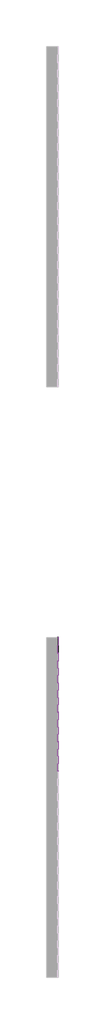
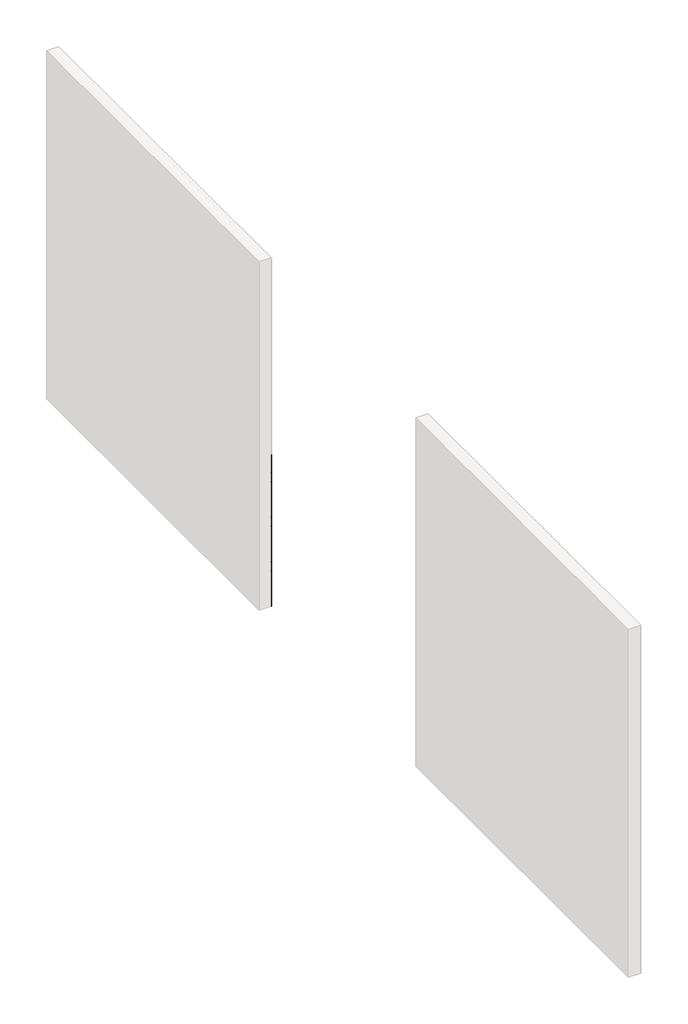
# One storey, part 30 of 45: 147 proxies.
"""IFC4 building model written with IfcOpenShell, lengths in millimetres."""

from ifc_helpers import new_model, si_unit, origin, place, context, project, spatial, transform, mapped, element, save
from components import generic_models_ab0f2c30, generic_models_1527efce

model = new_model("IFC4")

# Units and contexts
model_context = context("Model", 3, world=origin())
ifc_project = project(units=[si_unit("LENGTHUNIT", "METRE", prefix="MILLI")], contexts=[model_context])

# Site, building, storey
site = spatial("IfcSite", under=ifc_project)
building = spatial("IfcBuilding", under=site)
storey = spatial("IfcBuildingStorey", under=building, Name="PORTOBELLO - SHOWROOM", Elevation=0.0)

# Proxies
placement = place(None, origin())
generic_models_shape = generic_models_ab0f2c30(model_context)
element("IfcBuildingElementProxy", 1, Name="PBSHOP - HORIZONTES SANTORINI 6,5X23 : SANTORINI ROTAS", ObjectType="PBSHOP - HORIZONTES SANTORINI 6,5X23 : SANTORINI ROTAS", at=placement, inside=storey, context=model_context, shape_type="MappedRepresentation", body=[
    mapped(generic_models_shape, transform((66511.8826867, 12598.0312463, 1966.5), x_axis=(0.0, 0.0, 1.0), y_axis=(0.0, -1.0, 0.0), z_axis=(1.0, 0.0, 0.0))),
])
element("IfcBuildingElementProxy", 2, Name="PBSHOP - HORIZONTES SANTORINI 6,5X23 : SANTORINI ROTAS", ObjectType="PBSHOP - HORIZONTES SANTORINI 6,5X23 : SANTORINI ROTAS", at=placement, inside=storey, context=model_context, shape_type="MappedRepresentation", body=[
    mapped(generic_models_shape, transform((66511.8826867, 12832.0312463, 1966.5), x_axis=(0.0, 0.0, 1.0), y_axis=(0.0, -1.0, 0.0), z_axis=(1.0, 0.0, 0.0))),
])
element("IfcBuildingElementProxy", 3, Name="PBSHOP - HORIZONTES SANTORINI 6,5X23 : SANTORINI ROTAS", ObjectType="PBSHOP - HORIZONTES SANTORINI 6,5X23 : SANTORINI ROTAS", at=placement, inside=storey, context=model_context, shape_type="MappedRepresentation", body=[
    mapped(generic_models_shape, transform((66511.8826867, 12130.0312463, 2035.5), x_axis=(0.0, 0.0, 1.0), y_axis=(0.0, -1.0, 0.0), z_axis=(1.0, 0.0, 0.0))),
])
element("IfcBuildingElementProxy", 4, Name="PBSHOP - HORIZONTES SANTORINI 6,5X23 : SANTORINI ROTAS", ObjectType="PBSHOP - HORIZONTES SANTORINI 6,5X23 : SANTORINI ROTAS", at=placement, inside=storey, context=model_context, shape_type="MappedRepresentation", body=[
    mapped(generic_models_shape, transform((66511.8826867, 12364.0312463, 2035.5), x_axis=(0.0, 0.0, 1.0), y_axis=(0.0, -1.0, 0.0), z_axis=(1.0, 0.0, 0.0))),
])
element("IfcBuildingElementProxy", 5, Name="PBSHOP - HORIZONTES SANTORINI 6,5X23 : SANTORINI ROTAS", ObjectType="PBSHOP - HORIZONTES SANTORINI 6,5X23 : SANTORINI ROTAS", at=placement, inside=storey, context=model_context, shape_type="MappedRepresentation", body=[
    mapped(generic_models_shape, transform((66511.8826867, 12598.0312463, 2035.5), x_axis=(0.0, 0.0, 1.0), y_axis=(0.0, -1.0, 0.0), z_axis=(1.0, 0.0, 0.0))),
])
element("IfcBuildingElementProxy", 6, Name="PBSHOP - HORIZONTES SANTORINI 6,5X23 : SANTORINI ROTAS", ObjectType="PBSHOP - HORIZONTES SANTORINI 6,5X23 : SANTORINI ROTAS", at=placement, inside=storey, context=model_context, shape_type="MappedRepresentation", body=[
    mapped(generic_models_shape, transform((66511.8826867, 12832.0312463, 2035.5), x_axis=(0.0, 0.0, 1.0), y_axis=(0.0, -1.0, 0.0), z_axis=(1.0, 0.0, 0.0))),
])
element("IfcBuildingElementProxy", 7, Name="PBSHOP - HORIZONTES SANTORINI 6,5X23 : SANTORINI ROTAS", ObjectType="PBSHOP - HORIZONTES SANTORINI 6,5X23 : SANTORINI ROTAS", at=placement, inside=storey, context=model_context, shape_type="MappedRepresentation", body=[
    mapped(generic_models_shape, transform((66511.8826867, 12130.0312463, 2104.5), x_axis=(0.0, 0.0, 1.0), y_axis=(0.0, -1.0, 0.0), z_axis=(1.0, 0.0, 0.0))),
])
element("IfcBuildingElementProxy", 8, Name="PBSHOP - HORIZONTES SANTORINI 6,5X23 : SANTORINI ROTAS", ObjectType="PBSHOP - HORIZONTES SANTORINI 6,5X23 : SANTORINI ROTAS", at=placement, inside=storey, context=model_context, shape_type="MappedRepresentation", body=[
    mapped(generic_models_shape, transform((66511.8826867, 12364.0312463, 2104.5), x_axis=(0.0, 0.0, 1.0), y_axis=(0.0, -1.0, 0.0), z_axis=(1.0, 0.0, 0.0))),
])
element("IfcBuildingElementProxy", 9, Name="PBSHOP - HORIZONTES SANTORINI 6,5X23 : SANTORINI ROTAS", ObjectType="PBSHOP - HORIZONTES SANTORINI 6,5X23 : SANTORINI ROTAS", at=placement, inside=storey, context=model_context, shape_type="MappedRepresentation", body=[
    mapped(generic_models_shape, transform((66511.8826867, 12598.0312463, 2104.5), x_axis=(0.0, 0.0, 1.0), y_axis=(0.0, -1.0, 0.0), z_axis=(1.0, 0.0, 0.0))),
])
element("IfcBuildingElementProxy", 10, Name="PBSHOP - HORIZONTES SANTORINI 6,5X23 : SANTORINI ROTAS", ObjectType="PBSHOP - HORIZONTES SANTORINI 6,5X23 : SANTORINI ROTAS", at=placement, inside=storey, context=model_context, shape_type="MappedRepresentation", body=[
    mapped(generic_models_shape, transform((66511.8826867, 12832.0312463, 2104.5), x_axis=(0.0, 0.0, 1.0), y_axis=(0.0, -1.0, 0.0), z_axis=(1.0, 0.0, 0.0))),
])
element("IfcBuildingElementProxy", 11, Name="PBSHOP - HORIZONTES SANTORINI 6,5X23 : SANTORINI ROTAS", ObjectType="PBSHOP - HORIZONTES SANTORINI 6,5X23 : SANTORINI ROTAS", at=placement, inside=storey, context=model_context, shape_type="MappedRepresentation", body=[
    mapped(generic_models_shape, transform((66511.8826867, 12130.0312463, 2173.5), x_axis=(0.0, 0.0, 1.0), y_axis=(0.0, -1.0, 0.0), z_axis=(1.0, 0.0, 0.0))),
])
element("IfcBuildingElementProxy", 12, Name="PBSHOP - HORIZONTES SANTORINI 6,5X23 : SANTORINI ROTAS", ObjectType="PBSHOP - HORIZONTES SANTORINI 6,5X23 : SANTORINI ROTAS", at=placement, inside=storey, context=model_context, shape_type="MappedRepresentation", body=[
    mapped(generic_models_shape, transform((66511.8826867, 12364.0312463, 2173.5), x_axis=(0.0, 0.0, 1.0), y_axis=(0.0, -1.0, 0.0), z_axis=(1.0, 0.0, 0.0))),
])
element("IfcBuildingElementProxy", 13, Name="PBSHOP - HORIZONTES SANTORINI 6,5X23 : SANTORINI ROTAS", ObjectType="PBSHOP - HORIZONTES SANTORINI 6,5X23 : SANTORINI ROTAS", at=placement, inside=storey, context=model_context, shape_type="MappedRepresentation", body=[
    mapped(generic_models_shape, transform((66511.8826867, 12598.0312463, 2173.5), x_axis=(0.0, 0.0, 1.0), y_axis=(0.0, -1.0, 0.0), z_axis=(1.0, 0.0, 0.0))),
])
element("IfcBuildingElementProxy", 14, Name="PBSHOP - HORIZONTES SANTORINI 6,5X23 : SANTORINI ROTAS", ObjectType="PBSHOP - HORIZONTES SANTORINI 6,5X23 : SANTORINI ROTAS", at=placement, inside=storey, context=model_context, shape_type="MappedRepresentation", body=[
    mapped(generic_models_shape, transform((66511.8826867, 12832.0312463, 2173.5), x_axis=(0.0, 0.0, 1.0), y_axis=(0.0, -1.0, 0.0), z_axis=(1.0, 0.0, 0.0))),
])
element("IfcBuildingElementProxy", 15, Name="PBSHOP - HORIZONTES SANTORINI 6,5X23 : SANTORINI ROTAS", ObjectType="PBSHOP - HORIZONTES SANTORINI 6,5X23 : SANTORINI ROTAS", at=placement, inside=storey, context=model_context, shape_type="MappedRepresentation", body=[
    mapped(generic_models_shape, transform((66511.8826867, 12130.0312463, 2242.5), x_axis=(0.0, 0.0, 1.0), y_axis=(0.0, -1.0, 0.0), z_axis=(1.0, 0.0, 0.0))),
])
element("IfcBuildingElementProxy", 16, Name="PBSHOP - HORIZONTES SANTORINI 6,5X23 : SANTORINI ROTAS", ObjectType="PBSHOP - HORIZONTES SANTORINI 6,5X23 : SANTORINI ROTAS", at=placement, inside=storey, context=model_context, shape_type="MappedRepresentation", body=[
    mapped(generic_models_shape, transform((66511.8826867, 12364.0312463, 2242.5), x_axis=(0.0, 0.0, 1.0), y_axis=(0.0, -1.0, 0.0), z_axis=(1.0, 0.0, 0.0))),
])
element("IfcBuildingElementProxy", 17, Name="PBSHOP - HORIZONTES SANTORINI 6,5X23 : SANTORINI ROTAS", ObjectType="PBSHOP - HORIZONTES SANTORINI 6,5X23 : SANTORINI ROTAS", at=placement, inside=storey, context=model_context, shape_type="MappedRepresentation", body=[
    mapped(generic_models_shape, transform((66511.8826867, 12598.0312463, 2242.5), x_axis=(0.0, 0.0, 1.0), y_axis=(0.0, -1.0, 0.0), z_axis=(1.0, 0.0, 0.0))),
])
element("IfcBuildingElementProxy", 18, Name="PBSHOP - HORIZONTES SANTORINI 6,5X23 : SANTORINI ROTAS", ObjectType="PBSHOP - HORIZONTES SANTORINI 6,5X23 : SANTORINI ROTAS", at=placement, inside=storey, context=model_context, shape_type="MappedRepresentation", body=[
    mapped(generic_models_shape, transform((66511.8826867, 12832.0312463, 2242.5), x_axis=(0.0, 0.0, 1.0), y_axis=(0.0, -1.0, 0.0), z_axis=(1.0, 0.0, 0.0))),
])
element("IfcBuildingElementProxy", 19, Name="PBSHOP - HORIZONTES SANTORINI 6,5X23 : SANTORINI ROTAS", ObjectType="PBSHOP - HORIZONTES SANTORINI 6,5X23 : SANTORINI ROTAS", at=placement, inside=storey, context=model_context, shape_type="MappedRepresentation", body=[
    mapped(generic_models_shape, transform((66511.8826867, 12130.0312463, 2311.5), x_axis=(0.0, 0.0, 1.0), y_axis=(0.0, -1.0, 0.0), z_axis=(1.0, 0.0, 0.0))),
])
element("IfcBuildingElementProxy", 20, Name="PBSHOP - HORIZONTES SANTORINI 6,5X23 : SANTORINI ROTAS", ObjectType="PBSHOP - HORIZONTES SANTORINI 6,5X23 : SANTORINI ROTAS", at=placement, inside=storey, context=model_context, shape_type="MappedRepresentation", body=[
    mapped(generic_models_shape, transform((66511.8826867, 12364.0312463, 2311.5), x_axis=(0.0, 0.0, 1.0), y_axis=(0.0, -1.0, 0.0), z_axis=(1.0, 0.0, 0.0))),
])
element("IfcBuildingElementProxy", 21, Name="PBSHOP - HORIZONTES SANTORINI 6,5X23 : SANTORINI ROTAS", ObjectType="PBSHOP - HORIZONTES SANTORINI 6,5X23 : SANTORINI ROTAS", at=placement, inside=storey, context=model_context, shape_type="MappedRepresentation", body=[
    mapped(generic_models_shape, transform((66511.8826867, 12598.0312463, 2311.5), x_axis=(0.0, 0.0, 1.0), y_axis=(0.0, -1.0, 0.0), z_axis=(1.0, 0.0, 0.0))),
])
element("IfcBuildingElementProxy", 22, Name="PBSHOP - HORIZONTES SANTORINI 6,5X23 : SANTORINI ROTAS", ObjectType="PBSHOP - HORIZONTES SANTORINI 6,5X23 : SANTORINI ROTAS", at=placement, inside=storey, context=model_context, shape_type="MappedRepresentation", body=[
    mapped(generic_models_shape, transform((66511.8826867, 12832.0312463, 2311.5), x_axis=(0.0, 0.0, 1.0), y_axis=(0.0, -1.0, 0.0), z_axis=(1.0, 0.0, 0.0))),
])
element("IfcBuildingElementProxy", 23, Name="PBSHOP - HORIZONTES SANTORINI 6,5X23 : SANTORINI ROTAS", ObjectType="PBSHOP - HORIZONTES SANTORINI 6,5X23 : SANTORINI ROTAS", at=placement, inside=storey, context=model_context, shape_type="MappedRepresentation", body=[
    mapped(generic_models_shape, transform((66511.8826867, 12130.0312463, 2380.5), x_axis=(0.0, 0.0, 1.0), y_axis=(0.0, -1.0, 0.0), z_axis=(1.0, 0.0, 0.0))),
])
element("IfcBuildingElementProxy", 24, Name="PBSHOP - HORIZONTES SANTORINI 6,5X23 : SANTORINI ROTAS", ObjectType="PBSHOP - HORIZONTES SANTORINI 6,5X23 : SANTORINI ROTAS", at=placement, inside=storey, context=model_context, shape_type="MappedRepresentation", body=[
    mapped(generic_models_shape, transform((66511.8826867, 12364.0312463, 2380.5), x_axis=(0.0, 0.0, 1.0), y_axis=(0.0, -1.0, 0.0), z_axis=(1.0, 0.0, 0.0))),
])
element("IfcBuildingElementProxy", 25, Name="PBSHOP - HORIZONTES SANTORINI 6,5X23 : SANTORINI ROTAS", ObjectType="PBSHOP - HORIZONTES SANTORINI 6,5X23 : SANTORINI ROTAS", at=placement, inside=storey, context=model_context, shape_type="MappedRepresentation", body=[
    mapped(generic_models_shape, transform((66511.8826867, 12598.0312463, 2380.5), x_axis=(0.0, 0.0, 1.0), y_axis=(0.0, -1.0, 0.0), z_axis=(1.0, 0.0, 0.0))),
])
element("IfcBuildingElementProxy", 26, Name="PBSHOP - HORIZONTES SANTORINI 6,5X23 : SANTORINI ROTAS", ObjectType="PBSHOP - HORIZONTES SANTORINI 6,5X23 : SANTORINI ROTAS", at=placement, inside=storey, context=model_context, shape_type="MappedRepresentation", body=[
    mapped(generic_models_shape, transform((66511.8826867, 12832.0312463, 2380.5), x_axis=(0.0, 0.0, 1.0), y_axis=(0.0, -1.0, 0.0), z_axis=(1.0, 0.0, 0.0))),
])
element("IfcBuildingElementProxy", 27, Name="PBSHOP - HORIZONTES SANTORINI 6,5X23 : SANTORINI ROTAS", ObjectType="PBSHOP - HORIZONTES SANTORINI 6,5X23 : SANTORINI ROTAS", at=placement, inside=storey, context=model_context, shape_type="MappedRepresentation", body=[
    mapped(generic_models_shape, transform((66511.8826867, 12130.0312463, 2449.5), x_axis=(0.0, 0.0, 1.0), y_axis=(0.0, -1.0, 0.0), z_axis=(1.0, 0.0, 0.0))),
])
element("IfcBuildingElementProxy", 28, Name="PBSHOP - HORIZONTES SANTORINI 6,5X23 : SANTORINI ROTAS", ObjectType="PBSHOP - HORIZONTES SANTORINI 6,5X23 : SANTORINI ROTAS", at=placement, inside=storey, context=model_context, shape_type="MappedRepresentation", body=[
    mapped(generic_models_shape, transform((66511.8826867, 12364.0312463, 2449.5), x_axis=(0.0, 0.0, 1.0), y_axis=(0.0, -1.0, 0.0), z_axis=(1.0, 0.0, 0.0))),
])
element("IfcBuildingElementProxy", 29, Name="PBSHOP - HORIZONTES SANTORINI 6,5X23 : SANTORINI ROTAS", ObjectType="PBSHOP - HORIZONTES SANTORINI 6,5X23 : SANTORINI ROTAS", at=placement, inside=storey, context=model_context, shape_type="MappedRepresentation", body=[
    mapped(generic_models_shape, transform((66511.8826867, 12598.0312463, 2449.5), x_axis=(0.0, 0.0, 1.0), y_axis=(0.0, -1.0, 0.0), z_axis=(1.0, 0.0, 0.0))),
])
element("IfcBuildingElementProxy", 30, Name="PBSHOP - HORIZONTES SANTORINI 6,5X23 : SANTORINI ROTAS", ObjectType="PBSHOP - HORIZONTES SANTORINI 6,5X23 : SANTORINI ROTAS", at=placement, inside=storey, context=model_context, shape_type="MappedRepresentation", body=[
    mapped(generic_models_shape, transform((66511.8826867, 12832.0312463, 2449.5), x_axis=(0.0, 0.0, 1.0), y_axis=(0.0, -1.0, 0.0), z_axis=(1.0, 0.0, 0.0))),
])
element("IfcBuildingElementProxy", 31, Name="PBSHOP - HORIZONTES SANTORINI 6,5X23 : SANTORINI ROTAS", ObjectType="PBSHOP - HORIZONTES SANTORINI 6,5X23 : SANTORINI ROTAS", at=placement, inside=storey, context=model_context, shape_type="MappedRepresentation", body=[
    mapped(generic_models_shape, transform((66511.8826867, 12130.0312463, 2518.5), x_axis=(0.0, 0.0, 1.0), y_axis=(0.0, -1.0, 0.0), z_axis=(1.0, 0.0, 0.0))),
])
element("IfcBuildingElementProxy", 32, Name="PBSHOP - HORIZONTES SANTORINI 6,5X23 : SANTORINI ROTAS", ObjectType="PBSHOP - HORIZONTES SANTORINI 6,5X23 : SANTORINI ROTAS", at=placement, inside=storey, context=model_context, shape_type="MappedRepresentation", body=[
    mapped(generic_models_shape, transform((66511.8826867, 12364.0312463, 2518.5), x_axis=(0.0, 0.0, 1.0), y_axis=(0.0, -1.0, 0.0), z_axis=(1.0, 0.0, 0.0))),
])
element("IfcBuildingElementProxy", 33, Name="PBSHOP - HORIZONTES SANTORINI 6,5X23 : SANTORINI ROTAS", ObjectType="PBSHOP - HORIZONTES SANTORINI 6,5X23 : SANTORINI ROTAS", at=placement, inside=storey, context=model_context, shape_type="MappedRepresentation", body=[
    mapped(generic_models_shape, transform((66511.8826867, 12598.0312463, 2518.5), x_axis=(0.0, 0.0, 1.0), y_axis=(0.0, -1.0, 0.0), z_axis=(1.0, 0.0, 0.0))),
])
element("IfcBuildingElementProxy", 34, Name="PBSHOP - HORIZONTES SANTORINI 6,5X23 : SANTORINI ROTAS", ObjectType="PBSHOP - HORIZONTES SANTORINI 6,5X23 : SANTORINI ROTAS", at=placement, inside=storey, context=model_context, shape_type="MappedRepresentation", body=[
    mapped(generic_models_shape, transform((66511.8826867, 12832.0312463, 2518.5), x_axis=(0.0, 0.0, 1.0), y_axis=(0.0, -1.0, 0.0), z_axis=(1.0, 0.0, 0.0))),
])
element("IfcBuildingElementProxy", 35, Name="PBSHOP - HORIZONTES SANTORINI 6,5X23 : SANTORINI ROTAS", ObjectType="PBSHOP - HORIZONTES SANTORINI 6,5X23 : SANTORINI ROTAS", at=placement, inside=storey, context=model_context, shape_type="MappedRepresentation", body=[
    mapped(generic_models_shape, transform((66511.8826867, 12130.0312463, 2587.5), x_axis=(0.0, 0.0, 1.0), y_axis=(0.0, -1.0, 0.0), z_axis=(1.0, 0.0, 0.0))),
])
element("IfcBuildingElementProxy", 36, Name="PBSHOP - HORIZONTES SANTORINI 6,5X23 : SANTORINI ROTAS", ObjectType="PBSHOP - HORIZONTES SANTORINI 6,5X23 : SANTORINI ROTAS", at=placement, inside=storey, context=model_context, shape_type="MappedRepresentation", body=[
    mapped(generic_models_shape, transform((66511.8826867, 12364.0312463, 2587.5), x_axis=(0.0, 0.0, 1.0), y_axis=(0.0, -1.0, 0.0), z_axis=(1.0, 0.0, 0.0))),
])
element("IfcBuildingElementProxy", 37, Name="PBSHOP - HORIZONTES SANTORINI 6,5X23 : SANTORINI ROTAS", ObjectType="PBSHOP - HORIZONTES SANTORINI 6,5X23 : SANTORINI ROTAS", at=placement, inside=storey, context=model_context, shape_type="MappedRepresentation", body=[
    mapped(generic_models_shape, transform((66511.8826867, 12598.0312463, 2587.5), x_axis=(0.0, 0.0, 1.0), y_axis=(0.0, -1.0, 0.0), z_axis=(1.0, 0.0, 0.0))),
])
element("IfcBuildingElementProxy", 38, Name="PBSHOP - HORIZONTES SANTORINI 6,5X23 : SANTORINI ROTAS", ObjectType="PBSHOP - HORIZONTES SANTORINI 6,5X23 : SANTORINI ROTAS", at=placement, inside=storey, context=model_context, shape_type="MappedRepresentation", body=[
    mapped(generic_models_shape, transform((66511.8826867, 12832.0312463, 2587.5), x_axis=(0.0, 0.0, 1.0), y_axis=(0.0, -1.0, 0.0), z_axis=(1.0, 0.0, 0.0))),
])
element("IfcBuildingElementProxy", 39, Name="PBSHOP - HORIZONTES SANTORINI 6,5X23 : SANTORINI ROTAS", ObjectType="PBSHOP - HORIZONTES SANTORINI 6,5X23 : SANTORINI ROTAS", at=placement, inside=storey, context=model_context, shape_type="MappedRepresentation", body=[
    mapped(generic_models_shape, transform((66511.8826867, 12130.0312463, 2656.5), x_axis=(0.0, 0.0, 1.0), y_axis=(0.0, -1.0, 0.0), z_axis=(1.0, 0.0, 0.0))),
])
element("IfcBuildingElementProxy", 40, Name="PBSHOP - HORIZONTES SANTORINI 6,5X23 : SANTORINI ROTAS", ObjectType="PBSHOP - HORIZONTES SANTORINI 6,5X23 : SANTORINI ROTAS", at=placement, inside=storey, context=model_context, shape_type="MappedRepresentation", body=[
    mapped(generic_models_shape, transform((66511.8826867, 12364.0312463, 2656.5), x_axis=(0.0, 0.0, 1.0), y_axis=(0.0, -1.0, 0.0), z_axis=(1.0, 0.0, 0.0))),
])
element("IfcBuildingElementProxy", 41, Name="PBSHOP - HORIZONTES SANTORINI 6,5X23 : SANTORINI ROTAS", ObjectType="PBSHOP - HORIZONTES SANTORINI 6,5X23 : SANTORINI ROTAS", at=placement, inside=storey, context=model_context, shape_type="MappedRepresentation", body=[
    mapped(generic_models_shape, transform((66511.8826867, 12598.0312463, 2656.5), x_axis=(0.0, 0.0, 1.0), y_axis=(0.0, -1.0, 0.0), z_axis=(1.0, 0.0, 0.0))),
])
element("IfcBuildingElementProxy", 42, Name="PBSHOP - HORIZONTES SANTORINI 6,5X23 : SANTORINI ROTAS", ObjectType="PBSHOP - HORIZONTES SANTORINI 6,5X23 : SANTORINI ROTAS", at=placement, inside=storey, context=model_context, shape_type="MappedRepresentation", body=[
    mapped(generic_models_shape, transform((66511.8826867, 12832.0312463, 2656.5), x_axis=(0.0, 0.0, 1.0), y_axis=(0.0, -1.0, 0.0), z_axis=(1.0, 0.0, 0.0))),
])
element("IfcBuildingElementProxy", 43, Name="PBSHOP - HORIZONTES TULUM 6,5X23 : TULUM AGAVE", ObjectType="PBSHOP - HORIZONTES TULUM 6,5X23 : TULUM AGAVE", at=placement, inside=storey, context=model_context, shape_type="MappedRepresentation", body=[
    mapped(generic_models_shape, transform((66511.8826867, 15186.0588567, 34.5), x_axis=(0.0, 0.0, 1.0), y_axis=(0.0, -1.0, 0.0), z_axis=(1.0, 0.0, 0.0))),
])
element("IfcBuildingElementProxy", 44, Name="PBSHOP - HORIZONTES TULUM 6,5X23 : TULUM AGAVE", ObjectType="PBSHOP - HORIZONTES TULUM 6,5X23 : TULUM AGAVE", at=placement, inside=storey, context=model_context, shape_type="MappedRepresentation", body=[
    mapped(generic_models_shape, transform((66511.8826867, 15420.0588567, 34.5), x_axis=(0.0, 0.0, 1.0), y_axis=(0.0, -1.0, 0.0), z_axis=(1.0, 0.0, 0.0))),
])
element("IfcBuildingElementProxy", 45, Name="PBSHOP - HORIZONTES TULUM 6,5X23 : TULUM AGAVE", ObjectType="PBSHOP - HORIZONTES TULUM 6,5X23 : TULUM AGAVE", at=placement, inside=storey, context=model_context, shape_type="MappedRepresentation", body=[
    mapped(generic_models_shape, transform((66511.8826867, 15654.0588567, 34.5), x_axis=(0.0, 0.0, 1.0), y_axis=(0.0, -1.0, 0.0), z_axis=(1.0, 0.0, 0.0))),
])
element("IfcBuildingElementProxy", 46, Name="PBSHOP - HORIZONTES TULUM 6,5X23 : TULUM AGAVE", ObjectType="PBSHOP - HORIZONTES TULUM 6,5X23 : TULUM AGAVE", at=placement, inside=storey, context=model_context, shape_type="MappedRepresentation", body=[
    mapped(generic_models_shape, transform((66511.8826867, 15888.0588567, 34.5), x_axis=(0.0, 0.0, 1.0), y_axis=(0.0, -1.0, 0.0), z_axis=(1.0, 0.0, 0.0))),
])
element("IfcBuildingElementProxy", 47, Name="PBSHOP - HORIZONTES TULUM 6,5X23 : TULUM AGAVE", ObjectType="PBSHOP - HORIZONTES TULUM 6,5X23 : TULUM AGAVE", at=placement, inside=storey, context=model_context, shape_type="MappedRepresentation", body=[
    mapped(generic_models_shape, transform((66511.8826867, 15186.0588567, 103.5), x_axis=(0.0, 0.0, 1.0), y_axis=(0.0, -1.0, 0.0), z_axis=(1.0, 0.0, 0.0))),
])
element("IfcBuildingElementProxy", 48, Name="PBSHOP - HORIZONTES TULUM 6,5X23 : TULUM AGAVE", ObjectType="PBSHOP - HORIZONTES TULUM 6,5X23 : TULUM AGAVE", at=placement, inside=storey, context=model_context, shape_type="MappedRepresentation", body=[
    mapped(generic_models_shape, transform((66511.8826867, 15420.0588567, 103.5), x_axis=(0.0, 0.0, 1.0), y_axis=(0.0, -1.0, 0.0), z_axis=(1.0, 0.0, 0.0))),
])
element("IfcBuildingElementProxy", 49, Name="PBSHOP - HORIZONTES TULUM 6,5X23 : TULUM AGAVE", ObjectType="PBSHOP - HORIZONTES TULUM 6,5X23 : TULUM AGAVE", at=placement, inside=storey, context=model_context, shape_type="MappedRepresentation", body=[
    mapped(generic_models_shape, transform((66511.8826867, 15654.0588567, 103.5), x_axis=(0.0, 0.0, 1.0), y_axis=(0.0, -1.0, 0.0), z_axis=(1.0, 0.0, 0.0))),
])
element("IfcBuildingElementProxy", 50, Name="PBSHOP - HORIZONTES TULUM 6,5X23 : TULUM AGAVE", ObjectType="PBSHOP - HORIZONTES TULUM 6,5X23 : TULUM AGAVE", at=placement, inside=storey, context=model_context, shape_type="MappedRepresentation", body=[
    mapped(generic_models_shape, transform((66511.8826867, 15888.0588567, 103.5), x_axis=(0.0, 0.0, 1.0), y_axis=(0.0, -1.0, 0.0), z_axis=(1.0, 0.0, 0.0))),
])
element("IfcBuildingElementProxy", 51, Name="PBSHOP - HORIZONTES TULUM 6,5X23 : TULUM AGAVE", ObjectType="PBSHOP - HORIZONTES TULUM 6,5X23 : TULUM AGAVE", at=placement, inside=storey, context=model_context, shape_type="MappedRepresentation", body=[
    mapped(generic_models_shape, transform((66511.8826867, 15186.0588567, 172.5), x_axis=(0.0, 0.0, 1.0), y_axis=(0.0, -1.0, 0.0), z_axis=(1.0, 0.0, 0.0))),
])
element("IfcBuildingElementProxy", 52, Name="PBSHOP - HORIZONTES TULUM 6,5X23 : TULUM AGAVE", ObjectType="PBSHOP - HORIZONTES TULUM 6,5X23 : TULUM AGAVE", at=placement, inside=storey, context=model_context, shape_type="MappedRepresentation", body=[
    mapped(generic_models_shape, transform((66511.8826867, 15420.0588567, 172.5), x_axis=(0.0, 0.0, 1.0), y_axis=(0.0, -1.0, 0.0), z_axis=(1.0, 0.0, 0.0))),
])
element("IfcBuildingElementProxy", 53, Name="PBSHOP - HORIZONTES TULUM 6,5X23 : TULUM AGAVE", ObjectType="PBSHOP - HORIZONTES TULUM 6,5X23 : TULUM AGAVE", at=placement, inside=storey, context=model_context, shape_type="MappedRepresentation", body=[
    mapped(generic_models_shape, transform((66511.8826867, 15654.0588567, 172.5), x_axis=(0.0, 0.0, 1.0), y_axis=(0.0, -1.0, 0.0), z_axis=(1.0, 0.0, 0.0))),
])
element("IfcBuildingElementProxy", 54, Name="PBSHOP - HORIZONTES TULUM 6,5X23 : TULUM AGAVE", ObjectType="PBSHOP - HORIZONTES TULUM 6,5X23 : TULUM AGAVE", at=placement, inside=storey, context=model_context, shape_type="MappedRepresentation", body=[
    mapped(generic_models_shape, transform((66511.8826867, 15888.0588567, 172.5), x_axis=(0.0, 0.0, 1.0), y_axis=(0.0, -1.0, 0.0), z_axis=(1.0, 0.0, 0.0))),
])
element("IfcBuildingElementProxy", 55, Name="PBSHOP - HORIZONTES TULUM 6,5X23 : TULUM AGAVE", ObjectType="PBSHOP - HORIZONTES TULUM 6,5X23 : TULUM AGAVE", at=placement, inside=storey, context=model_context, shape_type="MappedRepresentation", body=[
    mapped(generic_models_shape, transform((66511.8826867, 15186.0588567, 241.5), x_axis=(0.0, 0.0, 1.0), y_axis=(0.0, -1.0, 0.0), z_axis=(1.0, 0.0, 0.0))),
])
element("IfcBuildingElementProxy", 56, Name="PBSHOP - HORIZONTES TULUM 6,5X23 : TULUM AGAVE", ObjectType="PBSHOP - HORIZONTES TULUM 6,5X23 : TULUM AGAVE", at=placement, inside=storey, context=model_context, shape_type="MappedRepresentation", body=[
    mapped(generic_models_shape, transform((66511.8826867, 15420.0588567, 241.5), x_axis=(0.0, 0.0, 1.0), y_axis=(0.0, -1.0, 0.0), z_axis=(1.0, 0.0, 0.0))),
])
element("IfcBuildingElementProxy", 57, Name="PBSHOP - HORIZONTES TULUM 6,5X23 : TULUM AGAVE", ObjectType="PBSHOP - HORIZONTES TULUM 6,5X23 : TULUM AGAVE", at=placement, inside=storey, context=model_context, shape_type="MappedRepresentation", body=[
    mapped(generic_models_shape, transform((66511.8826867, 15654.0588567, 241.5), x_axis=(0.0, 0.0, 1.0), y_axis=(0.0, -1.0, 0.0), z_axis=(1.0, 0.0, 0.0))),
])
element("IfcBuildingElementProxy", 58, Name="PBSHOP - HORIZONTES TULUM 6,5X23 : TULUM AGAVE", ObjectType="PBSHOP - HORIZONTES TULUM 6,5X23 : TULUM AGAVE", at=placement, inside=storey, context=model_context, shape_type="MappedRepresentation", body=[
    mapped(generic_models_shape, transform((66511.8826867, 15888.0588567, 241.5), x_axis=(0.0, 0.0, 1.0), y_axis=(0.0, -1.0, 0.0), z_axis=(1.0, 0.0, 0.0))),
])
element("IfcBuildingElementProxy", 59, Name="PBSHOP - HORIZONTES TULUM 6,5X23 : TULUM AGAVE", ObjectType="PBSHOP - HORIZONTES TULUM 6,5X23 : TULUM AGAVE", at=placement, inside=storey, context=model_context, shape_type="MappedRepresentation", body=[
    mapped(generic_models_shape, transform((66511.8826867, 15186.0588567, 310.5), x_axis=(0.0, 0.0, 1.0), y_axis=(0.0, -1.0, 0.0), z_axis=(1.0, 0.0, 0.0))),
])
element("IfcBuildingElementProxy", 60, Name="PBSHOP - HORIZONTES TULUM 6,5X23 : TULUM AGAVE", ObjectType="PBSHOP - HORIZONTES TULUM 6,5X23 : TULUM AGAVE", at=placement, inside=storey, context=model_context, shape_type="MappedRepresentation", body=[
    mapped(generic_models_shape, transform((66511.8826867, 15420.0588567, 310.5), x_axis=(0.0, 0.0, 1.0), y_axis=(0.0, -1.0, 0.0), z_axis=(1.0, 0.0, 0.0))),
])
element("IfcBuildingElementProxy", 61, Name="PBSHOP - HORIZONTES TULUM 6,5X23 : TULUM AGAVE", ObjectType="PBSHOP - HORIZONTES TULUM 6,5X23 : TULUM AGAVE", at=placement, inside=storey, context=model_context, shape_type="MappedRepresentation", body=[
    mapped(generic_models_shape, transform((66511.8826867, 15654.0588567, 310.5), x_axis=(0.0, 0.0, 1.0), y_axis=(0.0, -1.0, 0.0), z_axis=(1.0, 0.0, 0.0))),
])
element("IfcBuildingElementProxy", 62, Name="PBSHOP - HORIZONTES TULUM 6,5X23 : TULUM AGAVE", ObjectType="PBSHOP - HORIZONTES TULUM 6,5X23 : TULUM AGAVE", at=placement, inside=storey, context=model_context, shape_type="MappedRepresentation", body=[
    mapped(generic_models_shape, transform((66511.8826867, 15888.0588567, 310.5), x_axis=(0.0, 0.0, 1.0), y_axis=(0.0, -1.0, 0.0), z_axis=(1.0, 0.0, 0.0))),
])
element("IfcBuildingElementProxy", 63, Name="PBSHOP - HORIZONTES TULUM 6,5X23 : TULUM AGAVE", ObjectType="PBSHOP - HORIZONTES TULUM 6,5X23 : TULUM AGAVE", at=placement, inside=storey, context=model_context, shape_type="MappedRepresentation", body=[
    mapped(generic_models_shape, transform((66511.8826867, 15186.0588567, 379.5), x_axis=(0.0, 0.0, 1.0), y_axis=(0.0, -1.0, 0.0), z_axis=(1.0, 0.0, 0.0))),
])
element("IfcBuildingElementProxy", 64, Name="PBSHOP - HORIZONTES TULUM 6,5X23 : TULUM AGAVE", ObjectType="PBSHOP - HORIZONTES TULUM 6,5X23 : TULUM AGAVE", at=placement, inside=storey, context=model_context, shape_type="MappedRepresentation", body=[
    mapped(generic_models_shape, transform((66511.8826867, 15420.0588567, 379.5), x_axis=(0.0, 0.0, 1.0), y_axis=(0.0, -1.0, 0.0), z_axis=(1.0, 0.0, 0.0))),
])
element("IfcBuildingElementProxy", 65, Name="PBSHOP - HORIZONTES TULUM 6,5X23 : TULUM AGAVE", ObjectType="PBSHOP - HORIZONTES TULUM 6,5X23 : TULUM AGAVE", at=placement, inside=storey, context=model_context, shape_type="MappedRepresentation", body=[
    mapped(generic_models_shape, transform((66511.8826867, 15654.0588567, 379.5), x_axis=(0.0, 0.0, 1.0), y_axis=(0.0, -1.0, 0.0), z_axis=(1.0, 0.0, 0.0))),
])
element("IfcBuildingElementProxy", 66, Name="PBSHOP - HORIZONTES TULUM 6,5X23 : TULUM AGAVE", ObjectType="PBSHOP - HORIZONTES TULUM 6,5X23 : TULUM AGAVE", at=placement, inside=storey, context=model_context, shape_type="MappedRepresentation", body=[
    mapped(generic_models_shape, transform((66511.8826867, 15888.0588567, 379.5), x_axis=(0.0, 0.0, 1.0), y_axis=(0.0, -1.0, 0.0), z_axis=(1.0, 0.0, 0.0))),
])
element("IfcBuildingElementProxy", 67, Name="PBSHOP - HORIZONTES TULUM 6,5X23 : TULUM AGAVE", ObjectType="PBSHOP - HORIZONTES TULUM 6,5X23 : TULUM AGAVE", at=placement, inside=storey, context=model_context, shape_type="MappedRepresentation", body=[
    mapped(generic_models_shape, transform((66511.8826867, 15186.0588567, 448.5), x_axis=(0.0, 0.0, 1.0), y_axis=(0.0, -1.0, 0.0), z_axis=(1.0, 0.0, 0.0))),
])
element("IfcBuildingElementProxy", 68, Name="PBSHOP - HORIZONTES TULUM 6,5X23 : TULUM AGAVE", ObjectType="PBSHOP - HORIZONTES TULUM 6,5X23 : TULUM AGAVE", at=placement, inside=storey, context=model_context, shape_type="MappedRepresentation", body=[
    mapped(generic_models_shape, transform((66511.8826867, 15420.0588567, 448.5), x_axis=(0.0, 0.0, 1.0), y_axis=(0.0, -1.0, 0.0), z_axis=(1.0, 0.0, 0.0))),
])
element("IfcBuildingElementProxy", 69, Name="PBSHOP - HORIZONTES TULUM 6,5X23 : TULUM AGAVE", ObjectType="PBSHOP - HORIZONTES TULUM 6,5X23 : TULUM AGAVE", at=placement, inside=storey, context=model_context, shape_type="MappedRepresentation", body=[
    mapped(generic_models_shape, transform((66511.8826867, 15654.0588567, 448.5), x_axis=(0.0, 0.0, 1.0), y_axis=(0.0, -1.0, 0.0), z_axis=(1.0, 0.0, 0.0))),
])
element("IfcBuildingElementProxy", 70, Name="PBSHOP - HORIZONTES TULUM 6,5X23 : TULUM AGAVE", ObjectType="PBSHOP - HORIZONTES TULUM 6,5X23 : TULUM AGAVE", at=placement, inside=storey, context=model_context, shape_type="MappedRepresentation", body=[
    mapped(generic_models_shape, transform((66511.8826867, 15888.0588567, 448.5), x_axis=(0.0, 0.0, 1.0), y_axis=(0.0, -1.0, 0.0), z_axis=(1.0, 0.0, 0.0))),
])
element("IfcBuildingElementProxy", 71, Name="PBSHOP - HORIZONTES TULUM 6,5X23 : TULUM AGAVE", ObjectType="PBSHOP - HORIZONTES TULUM 6,5X23 : TULUM AGAVE", at=placement, inside=storey, context=model_context, shape_type="MappedRepresentation", body=[
    mapped(generic_models_shape, transform((66511.8826867, 15186.0588567, 517.5), x_axis=(0.0, 0.0, 1.0), y_axis=(0.0, -1.0, 0.0), z_axis=(1.0, 0.0, 0.0))),
])
element("IfcBuildingElementProxy", 72, Name="PBSHOP - HORIZONTES TULUM 6,5X23 : TULUM AGAVE", ObjectType="PBSHOP - HORIZONTES TULUM 6,5X23 : TULUM AGAVE", at=placement, inside=storey, context=model_context, shape_type="MappedRepresentation", body=[
    mapped(generic_models_shape, transform((66511.8826867, 15420.0588567, 517.5), x_axis=(0.0, 0.0, 1.0), y_axis=(0.0, -1.0, 0.0), z_axis=(1.0, 0.0, 0.0))),
])
element("IfcBuildingElementProxy", 73, Name="PBSHOP - HORIZONTES TULUM 6,5X23 : TULUM AGAVE", ObjectType="PBSHOP - HORIZONTES TULUM 6,5X23 : TULUM AGAVE", at=placement, inside=storey, context=model_context, shape_type="MappedRepresentation", body=[
    mapped(generic_models_shape, transform((66511.8826867, 15654.0588567, 517.5), x_axis=(0.0, 0.0, 1.0), y_axis=(0.0, -1.0, 0.0), z_axis=(1.0, 0.0, 0.0))),
])
element("IfcBuildingElementProxy", 74, Name="PBSHOP - HORIZONTES TULUM 6,5X23 : TULUM AGAVE", ObjectType="PBSHOP - HORIZONTES TULUM 6,5X23 : TULUM AGAVE", at=placement, inside=storey, context=model_context, shape_type="MappedRepresentation", body=[
    mapped(generic_models_shape, transform((66511.8826867, 15888.0588567, 517.5), x_axis=(0.0, 0.0, 1.0), y_axis=(0.0, -1.0, 0.0), z_axis=(1.0, 0.0, 0.0))),
])
element("IfcBuildingElementProxy", 75, Name="PBSHOP - HORIZONTES TULUM 6,5X23 : TULUM AGAVE", ObjectType="PBSHOP - HORIZONTES TULUM 6,5X23 : TULUM AGAVE", at=placement, inside=storey, context=model_context, shape_type="MappedRepresentation", body=[
    mapped(generic_models_shape, transform((66511.8826867, 15186.0588567, 586.5), x_axis=(0.0, 0.0, 1.0), y_axis=(0.0, -1.0, 0.0), z_axis=(1.0, 0.0, 0.0))),
])
element("IfcBuildingElementProxy", 76, Name="PBSHOP - HORIZONTES TULUM 6,5X23 : TULUM AGAVE", ObjectType="PBSHOP - HORIZONTES TULUM 6,5X23 : TULUM AGAVE", at=placement, inside=storey, context=model_context, shape_type="MappedRepresentation", body=[
    mapped(generic_models_shape, transform((66511.8826867, 15420.0588567, 586.5), x_axis=(0.0, 0.0, 1.0), y_axis=(0.0, -1.0, 0.0), z_axis=(1.0, 0.0, 0.0))),
])
element("IfcBuildingElementProxy", 77, Name="PBSHOP - HORIZONTES TULUM 6,5X23 : TULUM AGAVE", ObjectType="PBSHOP - HORIZONTES TULUM 6,5X23 : TULUM AGAVE", at=placement, inside=storey, context=model_context, shape_type="MappedRepresentation", body=[
    mapped(generic_models_shape, transform((66511.8826867, 15654.0588567, 586.5), x_axis=(0.0, 0.0, 1.0), y_axis=(0.0, -1.0, 0.0), z_axis=(1.0, 0.0, 0.0))),
])
element("IfcBuildingElementProxy", 78, Name="PBSHOP - HORIZONTES TULUM 6,5X23 : TULUM AGAVE", ObjectType="PBSHOP - HORIZONTES TULUM 6,5X23 : TULUM AGAVE", at=placement, inside=storey, context=model_context, shape_type="MappedRepresentation", body=[
    mapped(generic_models_shape, transform((66511.8826867, 15888.0588567, 586.5), x_axis=(0.0, 0.0, 1.0), y_axis=(0.0, -1.0, 0.0), z_axis=(1.0, 0.0, 0.0))),
])
element("IfcBuildingElementProxy", 79, Name="PBSHOP - HORIZONTES TULUM 6,5X23 : TULUM AGAVE", ObjectType="PBSHOP - HORIZONTES TULUM 6,5X23 : TULUM AGAVE", at=placement, inside=storey, context=model_context, shape_type="MappedRepresentation", body=[
    mapped(generic_models_shape, transform((66511.8826867, 15186.0588567, 655.5), x_axis=(0.0, 0.0, 1.0), y_axis=(0.0, -1.0, 0.0), z_axis=(1.0, 0.0, 0.0))),
])
element("IfcBuildingElementProxy", 80, Name="PBSHOP - HORIZONTES TULUM 6,5X23 : TULUM AGAVE", ObjectType="PBSHOP - HORIZONTES TULUM 6,5X23 : TULUM AGAVE", at=placement, inside=storey, context=model_context, shape_type="MappedRepresentation", body=[
    mapped(generic_models_shape, transform((66511.8826867, 15420.0588567, 655.5), x_axis=(0.0, 0.0, 1.0), y_axis=(0.0, -1.0, 0.0), z_axis=(1.0, 0.0, 0.0))),
])
element("IfcBuildingElementProxy", 81, Name="PBSHOP - HORIZONTES TULUM 6,5X23 : TULUM AGAVE", ObjectType="PBSHOP - HORIZONTES TULUM 6,5X23 : TULUM AGAVE", at=placement, inside=storey, context=model_context, shape_type="MappedRepresentation", body=[
    mapped(generic_models_shape, transform((66511.8826867, 15654.0588567, 655.5), x_axis=(0.0, 0.0, 1.0), y_axis=(0.0, -1.0, 0.0), z_axis=(1.0, 0.0, 0.0))),
])
element("IfcBuildingElementProxy", 82, Name="PBSHOP - HORIZONTES TULUM 6,5X23 : TULUM AGAVE", ObjectType="PBSHOP - HORIZONTES TULUM 6,5X23 : TULUM AGAVE", at=placement, inside=storey, context=model_context, shape_type="MappedRepresentation", body=[
    mapped(generic_models_shape, transform((66511.8826867, 15888.0588567, 655.5), x_axis=(0.0, 0.0, 1.0), y_axis=(0.0, -1.0, 0.0), z_axis=(1.0, 0.0, 0.0))),
])
element("IfcBuildingElementProxy", 83, Name="PBSHOP - HORIZONTES TULUM 6,5X23 : TULUM AGAVE", ObjectType="PBSHOP - HORIZONTES TULUM 6,5X23 : TULUM AGAVE", at=placement, inside=storey, context=model_context, shape_type="MappedRepresentation", body=[
    mapped(generic_models_shape, transform((66511.8826867, 15186.0588567, 724.5), x_axis=(0.0, 0.0, 1.0), y_axis=(0.0, -1.0, 0.0), z_axis=(1.0, 0.0, 0.0))),
])
element("IfcBuildingElementProxy", 84, Name="PBSHOP - HORIZONTES TULUM 6,5X23 : TULUM AGAVE", ObjectType="PBSHOP - HORIZONTES TULUM 6,5X23 : TULUM AGAVE", at=placement, inside=storey, context=model_context, shape_type="MappedRepresentation", body=[
    mapped(generic_models_shape, transform((66511.8826867, 15420.0588567, 724.5), x_axis=(0.0, 0.0, 1.0), y_axis=(0.0, -1.0, 0.0), z_axis=(1.0, 0.0, 0.0))),
])
element("IfcBuildingElementProxy", 85, Name="PBSHOP - HORIZONTES TULUM 6,5X23 : TULUM AGAVE", ObjectType="PBSHOP - HORIZONTES TULUM 6,5X23 : TULUM AGAVE", at=placement, inside=storey, context=model_context, shape_type="MappedRepresentation", body=[
    mapped(generic_models_shape, transform((66511.8826867, 15654.0588567, 724.5), x_axis=(0.0, 0.0, 1.0), y_axis=(0.0, -1.0, 0.0), z_axis=(1.0, 0.0, 0.0))),
])
element("IfcBuildingElementProxy", 86, Name="PBSHOP - HORIZONTES TULUM 6,5X23 : TULUM AGAVE", ObjectType="PBSHOP - HORIZONTES TULUM 6,5X23 : TULUM AGAVE", at=placement, inside=storey, context=model_context, shape_type="MappedRepresentation", body=[
    mapped(generic_models_shape, transform((66511.8826867, 15888.0588567, 724.5), x_axis=(0.0, 0.0, 1.0), y_axis=(0.0, -1.0, 0.0), z_axis=(1.0, 0.0, 0.0))),
])
element("IfcBuildingElementProxy", 87, Name="PBSHOP - HORIZONTES TULUM 6,5X23 : TULUM AGAVE", ObjectType="PBSHOP - HORIZONTES TULUM 6,5X23 : TULUM AGAVE", at=placement, inside=storey, context=model_context, shape_type="MappedRepresentation", body=[
    mapped(generic_models_shape, transform((66511.8826867, 15186.0588567, 793.5), x_axis=(0.0, 0.0, 1.0), y_axis=(0.0, -1.0, 0.0), z_axis=(1.0, 0.0, 0.0))),
])
element("IfcBuildingElementProxy", 88, Name="PBSHOP - HORIZONTES TULUM 6,5X23 : TULUM AGAVE", ObjectType="PBSHOP - HORIZONTES TULUM 6,5X23 : TULUM AGAVE", at=placement, inside=storey, context=model_context, shape_type="MappedRepresentation", body=[
    mapped(generic_models_shape, transform((66511.8826867, 15420.0588567, 793.5), x_axis=(0.0, 0.0, 1.0), y_axis=(0.0, -1.0, 0.0), z_axis=(1.0, 0.0, 0.0))),
])
element("IfcBuildingElementProxy", 89, Name="PBSHOP - HORIZONTES TULUM 6,5X23 : TULUM AGAVE", ObjectType="PBSHOP - HORIZONTES TULUM 6,5X23 : TULUM AGAVE", at=placement, inside=storey, context=model_context, shape_type="MappedRepresentation", body=[
    mapped(generic_models_shape, transform((66511.8826867, 15654.0588567, 793.5), x_axis=(0.0, 0.0, 1.0), y_axis=(0.0, -1.0, 0.0), z_axis=(1.0, 0.0, 0.0))),
])
element("IfcBuildingElementProxy", 90, Name="PBSHOP - HORIZONTES TULUM 6,5X23 : TULUM AGAVE", ObjectType="PBSHOP - HORIZONTES TULUM 6,5X23 : TULUM AGAVE", at=placement, inside=storey, context=model_context, shape_type="MappedRepresentation", body=[
    mapped(generic_models_shape, transform((66511.8826867, 15888.0588567, 793.5), x_axis=(0.0, 0.0, 1.0), y_axis=(0.0, -1.0, 0.0), z_axis=(1.0, 0.0, 0.0))),
])
element("IfcBuildingElementProxy", 91, Name="PBSHOP - HORIZONTES TULUM 6,5X23 : TULUM AGAVE", ObjectType="PBSHOP - HORIZONTES TULUM 6,5X23 : TULUM AGAVE", at=placement, inside=storey, context=model_context, shape_type="MappedRepresentation", body=[
    mapped(generic_models_shape, transform((66511.8826867, 15186.0588567, 862.5), x_axis=(0.0, 0.0, 1.0), y_axis=(0.0, -1.0, 0.0), z_axis=(1.0, 0.0, 0.0))),
])
element("IfcBuildingElementProxy", 92, Name="PBSHOP - HORIZONTES TULUM 6,5X23 : TULUM AGAVE", ObjectType="PBSHOP - HORIZONTES TULUM 6,5X23 : TULUM AGAVE", at=placement, inside=storey, context=model_context, shape_type="MappedRepresentation", body=[
    mapped(generic_models_shape, transform((66511.8826867, 15420.0588567, 862.5), x_axis=(0.0, 0.0, 1.0), y_axis=(0.0, -1.0, 0.0), z_axis=(1.0, 0.0, 0.0))),
])
element("IfcBuildingElementProxy", 93, Name="PBSHOP - HORIZONTES TULUM 6,5X23 : TULUM AGAVE", ObjectType="PBSHOP - HORIZONTES TULUM 6,5X23 : TULUM AGAVE", at=placement, inside=storey, context=model_context, shape_type="MappedRepresentation", body=[
    mapped(generic_models_shape, transform((66511.8826867, 15654.0588567, 862.5), x_axis=(0.0, 0.0, 1.0), y_axis=(0.0, -1.0, 0.0), z_axis=(1.0, 0.0, 0.0))),
])
element("IfcBuildingElementProxy", 94, Name="PBSHOP - HORIZONTES TULUM 6,5X23 : TULUM AGAVE", ObjectType="PBSHOP - HORIZONTES TULUM 6,5X23 : TULUM AGAVE", at=placement, inside=storey, context=model_context, shape_type="MappedRepresentation", body=[
    mapped(generic_models_shape, transform((66511.8826867, 15888.0588567, 862.5), x_axis=(0.0, 0.0, 1.0), y_axis=(0.0, -1.0, 0.0), z_axis=(1.0, 0.0, 0.0))),
])
element("IfcBuildingElementProxy", 95, Name="PBSHOP - HORIZONTES TULUM 6,5X23 : TULUM AGAVE", ObjectType="PBSHOP - HORIZONTES TULUM 6,5X23 : TULUM AGAVE", at=placement, inside=storey, context=model_context, shape_type="MappedRepresentation", body=[
    mapped(generic_models_shape, transform((66511.8826867, 15186.0588567, 931.5), x_axis=(0.0, 0.0, 1.0), y_axis=(0.0, -1.0, 0.0), z_axis=(1.0, 0.0, 0.0))),
])
element("IfcBuildingElementProxy", 96, Name="PBSHOP - HORIZONTES TULUM 6,5X23 : TULUM AGAVE", ObjectType="PBSHOP - HORIZONTES TULUM 6,5X23 : TULUM AGAVE", at=placement, inside=storey, context=model_context, shape_type="MappedRepresentation", body=[
    mapped(generic_models_shape, transform((66511.8826867, 15420.0588567, 931.5), x_axis=(0.0, 0.0, 1.0), y_axis=(0.0, -1.0, 0.0), z_axis=(1.0, 0.0, 0.0))),
])
element("IfcBuildingElementProxy", 97, Name="PBSHOP - HORIZONTES TULUM 6,5X23 : TULUM AGAVE", ObjectType="PBSHOP - HORIZONTES TULUM 6,5X23 : TULUM AGAVE", at=placement, inside=storey, context=model_context, shape_type="MappedRepresentation", body=[
    mapped(generic_models_shape, transform((66511.8826867, 15654.0588567, 931.5), x_axis=(0.0, 0.0, 1.0), y_axis=(0.0, -1.0, 0.0), z_axis=(1.0, 0.0, 0.0))),
])
element("IfcBuildingElementProxy", 98, Name="PBSHOP - HORIZONTES TULUM 6,5X23 : TULUM AGAVE", ObjectType="PBSHOP - HORIZONTES TULUM 6,5X23 : TULUM AGAVE", at=placement, inside=storey, context=model_context, shape_type="MappedRepresentation", body=[
    mapped(generic_models_shape, transform((66511.8826867, 15888.0588567, 931.5), x_axis=(0.0, 0.0, 1.0), y_axis=(0.0, -1.0, 0.0), z_axis=(1.0, 0.0, 0.0))),
])
element("IfcBuildingElementProxy", 99, Name="PBSHOP - HORIZONTES TULUM 6,5X23 : TULUM AGAVE", ObjectType="PBSHOP - HORIZONTES TULUM 6,5X23 : TULUM AGAVE", at=placement, inside=storey, context=model_context, shape_type="MappedRepresentation", body=[
    mapped(generic_models_shape, transform((66511.8826867, 15186.0588567, 1000.5), x_axis=(0.0, 0.0, 1.0), y_axis=(0.0, -1.0, 0.0), z_axis=(1.0, 0.0, 0.0))),
])
element("IfcBuildingElementProxy", 100, Name="PBSHOP - HORIZONTES TULUM 6,5X23 : TULUM AGAVE", ObjectType="PBSHOP - HORIZONTES TULUM 6,5X23 : TULUM AGAVE", at=placement, inside=storey, context=model_context, shape_type="MappedRepresentation", body=[
    mapped(generic_models_shape, transform((66511.8826867, 15420.0588567, 1000.5), x_axis=(0.0, 0.0, 1.0), y_axis=(0.0, -1.0, 0.0), z_axis=(1.0, 0.0, 0.0))),
])
element("IfcBuildingElementProxy", 101, Name="PBSHOP - HORIZONTES TULUM 6,5X23 : TULUM AGAVE", ObjectType="PBSHOP - HORIZONTES TULUM 6,5X23 : TULUM AGAVE", at=placement, inside=storey, context=model_context, shape_type="MappedRepresentation", body=[
    mapped(generic_models_shape, transform((66511.8826867, 15654.0588567, 1000.5), x_axis=(0.0, 0.0, 1.0), y_axis=(0.0, -1.0, 0.0), z_axis=(1.0, 0.0, 0.0))),
])
element("IfcBuildingElementProxy", 102, Name="PBSHOP - HORIZONTES TULUM 6,5X23 : TULUM AGAVE", ObjectType="PBSHOP - HORIZONTES TULUM 6,5X23 : TULUM AGAVE", at=placement, inside=storey, context=model_context, shape_type="MappedRepresentation", body=[
    mapped(generic_models_shape, transform((66511.8826867, 15888.0588567, 1000.5), x_axis=(0.0, 0.0, 1.0), y_axis=(0.0, -1.0, 0.0), z_axis=(1.0, 0.0, 0.0))),
])
element("IfcBuildingElementProxy", 103, Name="PBSHOP - HORIZONTES TULUM 6,5X23 : TULUM AGAVE", ObjectType="PBSHOP - HORIZONTES TULUM 6,5X23 : TULUM AGAVE", at=placement, inside=storey, context=model_context, shape_type="MappedRepresentation", body=[
    mapped(generic_models_shape, transform((66511.8826867, 15186.0588567, 1069.5), x_axis=(0.0, 0.0, 1.0), y_axis=(0.0, -1.0, 0.0), z_axis=(1.0, 0.0, 0.0))),
])
element("IfcBuildingElementProxy", 104, Name="PBSHOP - HORIZONTES TULUM 6,5X23 : TULUM AGAVE", ObjectType="PBSHOP - HORIZONTES TULUM 6,5X23 : TULUM AGAVE", at=placement, inside=storey, context=model_context, shape_type="MappedRepresentation", body=[
    mapped(generic_models_shape, transform((66511.8826867, 15420.0588567, 1069.5), x_axis=(0.0, 0.0, 1.0), y_axis=(0.0, -1.0, 0.0), z_axis=(1.0, 0.0, 0.0))),
])
element("IfcBuildingElementProxy", 105, Name="PBSHOP - HORIZONTES TULUM 6,5X23 : TULUM AGAVE", ObjectType="PBSHOP - HORIZONTES TULUM 6,5X23 : TULUM AGAVE", at=placement, inside=storey, context=model_context, shape_type="MappedRepresentation", body=[
    mapped(generic_models_shape, transform((66511.8826867, 15654.0588567, 1069.5), x_axis=(0.0, 0.0, 1.0), y_axis=(0.0, -1.0, 0.0), z_axis=(1.0, 0.0, 0.0))),
])
element("IfcBuildingElementProxy", 106, Name="PBSHOP - HORIZONTES TULUM 6,5X23 : TULUM AGAVE", ObjectType="PBSHOP - HORIZONTES TULUM 6,5X23 : TULUM AGAVE", at=placement, inside=storey, context=model_context, shape_type="MappedRepresentation", body=[
    mapped(generic_models_shape, transform((66511.8826867, 15888.0588567, 1069.5), x_axis=(0.0, 0.0, 1.0), y_axis=(0.0, -1.0, 0.0), z_axis=(1.0, 0.0, 0.0))),
])
element("IfcBuildingElementProxy", 107, Name="PBSHOP - HORIZONTES TULUM 6,5X23 : TULUM AGAVE", ObjectType="PBSHOP - HORIZONTES TULUM 6,5X23 : TULUM AGAVE", at=placement, inside=storey, context=model_context, shape_type="MappedRepresentation", body=[
    mapped(generic_models_shape, transform((66511.8826867, 15186.0588567, 1138.5), x_axis=(0.0, 0.0, 1.0), y_axis=(0.0, -1.0, 0.0), z_axis=(1.0, 0.0, 0.0))),
])
element("IfcBuildingElementProxy", 108, Name="PBSHOP - HORIZONTES TULUM 6,5X23 : TULUM AGAVE", ObjectType="PBSHOP - HORIZONTES TULUM 6,5X23 : TULUM AGAVE", at=placement, inside=storey, context=model_context, shape_type="MappedRepresentation", body=[
    mapped(generic_models_shape, transform((66511.8826867, 15420.0588567, 1138.5), x_axis=(0.0, 0.0, 1.0), y_axis=(0.0, -1.0, 0.0), z_axis=(1.0, 0.0, 0.0))),
])
generic_models_2_shape = generic_models_1527efce(model_context)
element("IfcBuildingElementProxy", 109, Name="PBSHOP - HORIZONTES SANTORINI 6,5X23 : SANTORINI ROTAS", ObjectType="PBSHOP - HORIZONTES SANTORINI 6,5X23 : SANTORINI ROTAS", at=placement, inside=storey, context=model_context, shape_type="MappedRepresentation", body=[
    mapped(generic_models_2_shape, transform((66511.8826867, 13066.0312463, 34.5), x_axis=(0.0, 0.0, 1.0), y_axis=(0.0, -1.0, 0.0), z_axis=(1.0, 0.0, 0.0))),
])
element("IfcBuildingElementProxy", 110, Name="PBSHOP - HORIZONTES SANTORINI 6,5X23 : SANTORINI ROTAS", ObjectType="PBSHOP - HORIZONTES SANTORINI 6,5X23 : SANTORINI ROTAS", at=placement, inside=storey, context=model_context, shape_type="MappedRepresentation", body=[
    mapped(generic_models_2_shape, transform((66511.8826867, 13066.0312463, 103.5), x_axis=(0.0, 0.0, 1.0), y_axis=(0.0, -1.0, 0.0), z_axis=(1.0, 0.0, 0.0))),
])
element("IfcBuildingElementProxy", 111, Name="PBSHOP - HORIZONTES SANTORINI 6,5X23 : SANTORINI ROTAS", ObjectType="PBSHOP - HORIZONTES SANTORINI 6,5X23 : SANTORINI ROTAS", at=placement, inside=storey, context=model_context, shape_type="MappedRepresentation", body=[
    mapped(generic_models_2_shape, transform((66511.8826867, 13066.0312463, 172.5), x_axis=(0.0, 0.0, 1.0), y_axis=(0.0, -1.0, 0.0), z_axis=(1.0, 0.0, 0.0))),
])
element("IfcBuildingElementProxy", 112, Name="PBSHOP - HORIZONTES SANTORINI 6,5X23 : SANTORINI ROTAS", ObjectType="PBSHOP - HORIZONTES SANTORINI 6,5X23 : SANTORINI ROTAS", at=placement, inside=storey, context=model_context, shape_type="MappedRepresentation", body=[
    mapped(generic_models_2_shape, transform((66511.8826867, 13066.0312463, 241.5), x_axis=(0.0, 0.0, 1.0), y_axis=(0.0, -1.0, 0.0), z_axis=(1.0, 0.0, 0.0))),
])
element("IfcBuildingElementProxy", 113, Name="PBSHOP - HORIZONTES SANTORINI 6,5X23 : SANTORINI ROTAS", ObjectType="PBSHOP - HORIZONTES SANTORINI 6,5X23 : SANTORINI ROTAS", at=placement, inside=storey, context=model_context, shape_type="MappedRepresentation", body=[
    mapped(generic_models_2_shape, transform((66511.8826867, 13066.0312463, 310.5), x_axis=(0.0, 0.0, 1.0), y_axis=(0.0, -1.0, 0.0), z_axis=(1.0, 0.0, 0.0))),
])
element("IfcBuildingElementProxy", 114, Name="PBSHOP - HORIZONTES SANTORINI 6,5X23 : SANTORINI ROTAS", ObjectType="PBSHOP - HORIZONTES SANTORINI 6,5X23 : SANTORINI ROTAS", at=placement, inside=storey, context=model_context, shape_type="MappedRepresentation", body=[
    mapped(generic_models_2_shape, transform((66511.8826867, 13066.0312463, 379.5), x_axis=(0.0, 0.0, 1.0), y_axis=(0.0, -1.0, 0.0), z_axis=(1.0, 0.0, 0.0))),
])
element("IfcBuildingElementProxy", 115, Name="PBSHOP - HORIZONTES SANTORINI 6,5X23 : SANTORINI ROTAS", ObjectType="PBSHOP - HORIZONTES SANTORINI 6,5X23 : SANTORINI ROTAS", at=placement, inside=storey, context=model_context, shape_type="MappedRepresentation", body=[
    mapped(generic_models_2_shape, transform((66511.8826867, 13066.0312463, 448.5), x_axis=(0.0, 0.0, 1.0), y_axis=(0.0, -1.0, 0.0), z_axis=(1.0, 0.0, 0.0))),
])
element("IfcBuildingElementProxy", 116, Name="PBSHOP - HORIZONTES SANTORINI 6,5X23 : SANTORINI ROTAS", ObjectType="PBSHOP - HORIZONTES SANTORINI 6,5X23 : SANTORINI ROTAS", at=placement, inside=storey, context=model_context, shape_type="MappedRepresentation", body=[
    mapped(generic_models_2_shape, transform((66511.8826867, 13066.0312463, 517.5), x_axis=(0.0, 0.0, 1.0), y_axis=(0.0, -1.0, 0.0), z_axis=(1.0, 0.0, 0.0))),
])
element("IfcBuildingElementProxy", 117, Name="PBSHOP - HORIZONTES SANTORINI 6,5X23 : SANTORINI ROTAS", ObjectType="PBSHOP - HORIZONTES SANTORINI 6,5X23 : SANTORINI ROTAS", at=placement, inside=storey, context=model_context, shape_type="MappedRepresentation", body=[
    mapped(generic_models_2_shape, transform((66511.8826867, 13066.0312463, 586.5), x_axis=(0.0, 0.0, 1.0), y_axis=(0.0, -1.0, 0.0), z_axis=(1.0, 0.0, 0.0))),
])
element("IfcBuildingElementProxy", 118, Name="PBSHOP - HORIZONTES SANTORINI 6,5X23 : SANTORINI ROTAS", ObjectType="PBSHOP - HORIZONTES SANTORINI 6,5X23 : SANTORINI ROTAS", at=placement, inside=storey, context=model_context, shape_type="MappedRepresentation", body=[
    mapped(generic_models_2_shape, transform((66511.8826867, 13066.0312463, 655.5), x_axis=(0.0, 0.0, 1.0), y_axis=(0.0, -1.0, 0.0), z_axis=(1.0, 0.0, 0.0))),
])
element("IfcBuildingElementProxy", 119, Name="PBSHOP - HORIZONTES SANTORINI 6,5X23 : SANTORINI ROTAS", ObjectType="PBSHOP - HORIZONTES SANTORINI 6,5X23 : SANTORINI ROTAS", at=placement, inside=storey, context=model_context, shape_type="MappedRepresentation", body=[
    mapped(generic_models_2_shape, transform((66511.8826867, 13066.0312463, 724.5), x_axis=(0.0, 0.0, 1.0), y_axis=(0.0, -1.0, 0.0), z_axis=(1.0, 0.0, 0.0))),
])
element("IfcBuildingElementProxy", 120, Name="PBSHOP - HORIZONTES SANTORINI 6,5X23 : SANTORINI ROTAS", ObjectType="PBSHOP - HORIZONTES SANTORINI 6,5X23 : SANTORINI ROTAS", at=placement, inside=storey, context=model_context, shape_type="MappedRepresentation", body=[
    mapped(generic_models_2_shape, transform((66511.8826867, 13066.0312463, 793.5), x_axis=(0.0, 0.0, 1.0), y_axis=(0.0, -1.0, 0.0), z_axis=(1.0, 0.0, 0.0))),
])
element("IfcBuildingElementProxy", 121, Name="PBSHOP - HORIZONTES SANTORINI 6,5X23 : SANTORINI ROTAS", ObjectType="PBSHOP - HORIZONTES SANTORINI 6,5X23 : SANTORINI ROTAS", at=placement, inside=storey, context=model_context, shape_type="MappedRepresentation", body=[
    mapped(generic_models_2_shape, transform((66511.8826867, 13066.0312463, 862.5), x_axis=(0.0, 0.0, 1.0), y_axis=(0.0, -1.0, 0.0), z_axis=(1.0, 0.0, 0.0))),
])
element("IfcBuildingElementProxy", 122, Name="PBSHOP - HORIZONTES SANTORINI 6,5X23 : SANTORINI ROTAS", ObjectType="PBSHOP - HORIZONTES SANTORINI 6,5X23 : SANTORINI ROTAS", at=placement, inside=storey, context=model_context, shape_type="MappedRepresentation", body=[
    mapped(generic_models_2_shape, transform((66511.8826867, 13066.0312463, 931.5), x_axis=(0.0, 0.0, 1.0), y_axis=(0.0, -1.0, 0.0), z_axis=(1.0, 0.0, 0.0))),
])
element("IfcBuildingElementProxy", 123, Name="PBSHOP - HORIZONTES SANTORINI 6,5X23 : SANTORINI ROTAS", ObjectType="PBSHOP - HORIZONTES SANTORINI 6,5X23 : SANTORINI ROTAS", at=placement, inside=storey, context=model_context, shape_type="MappedRepresentation", body=[
    mapped(generic_models_2_shape, transform((66511.8826867, 13066.0312463, 1000.5), x_axis=(0.0, 0.0, 1.0), y_axis=(0.0, -1.0, 0.0), z_axis=(1.0, 0.0, 0.0))),
])
element("IfcBuildingElementProxy", 124, Name="PBSHOP - HORIZONTES SANTORINI 6,5X23 : SANTORINI ROTAS", ObjectType="PBSHOP - HORIZONTES SANTORINI 6,5X23 : SANTORINI ROTAS", at=placement, inside=storey, context=model_context, shape_type="MappedRepresentation", body=[
    mapped(generic_models_2_shape, transform((66511.8826867, 13066.0312463, 1069.5), x_axis=(0.0, 0.0, 1.0), y_axis=(0.0, -1.0, 0.0), z_axis=(1.0, 0.0, 0.0))),
])
element("IfcBuildingElementProxy", 125, Name="PBSHOP - HORIZONTES SANTORINI 6,5X23 : SANTORINI ROTAS", ObjectType="PBSHOP - HORIZONTES SANTORINI 6,5X23 : SANTORINI ROTAS", at=placement, inside=storey, context=model_context, shape_type="MappedRepresentation", body=[
    mapped(generic_models_2_shape, transform((66511.8826867, 13066.0312463, 1138.5), x_axis=(0.0, 0.0, 1.0), y_axis=(0.0, -1.0, 0.0), z_axis=(1.0, 0.0, 0.0))),
])
element("IfcBuildingElementProxy", 126, Name="PBSHOP - HORIZONTES SANTORINI 6,5X23 : SANTORINI ROTAS", ObjectType="PBSHOP - HORIZONTES SANTORINI 6,5X23 : SANTORINI ROTAS", at=placement, inside=storey, context=model_context, shape_type="MappedRepresentation", body=[
    mapped(generic_models_2_shape, transform((66511.8826867, 13066.0312463, 1207.5), x_axis=(0.0, 0.0, 1.0), y_axis=(0.0, -1.0, 0.0), z_axis=(1.0, 0.0, 0.0))),
])
element("IfcBuildingElementProxy", 127, Name="PBSHOP - HORIZONTES SANTORINI 6,5X23 : SANTORINI ROTAS", ObjectType="PBSHOP - HORIZONTES SANTORINI 6,5X23 : SANTORINI ROTAS", at=placement, inside=storey, context=model_context, shape_type="MappedRepresentation", body=[
    mapped(generic_models_2_shape, transform((66511.8826867, 13066.0312463, 1276.5), x_axis=(0.0, 0.0, 1.0), y_axis=(0.0, -1.0, 0.0), z_axis=(1.0, 0.0, 0.0))),
])
element("IfcBuildingElementProxy", 128, Name="PBSHOP - HORIZONTES SANTORINI 6,5X23 : SANTORINI ROTAS", ObjectType="PBSHOP - HORIZONTES SANTORINI 6,5X23 : SANTORINI ROTAS", at=placement, inside=storey, context=model_context, shape_type="MappedRepresentation", body=[
    mapped(generic_models_2_shape, transform((66511.8826867, 13066.0312463, 1345.5), x_axis=(0.0, 0.0, 1.0), y_axis=(0.0, -1.0, 0.0), z_axis=(1.0, 0.0, 0.0))),
])
element("IfcBuildingElementProxy", 129, Name="PBSHOP - HORIZONTES SANTORINI 6,5X23 : SANTORINI ROTAS", ObjectType="PBSHOP - HORIZONTES SANTORINI 6,5X23 : SANTORINI ROTAS", at=placement, inside=storey, context=model_context, shape_type="MappedRepresentation", body=[
    mapped(generic_models_2_shape, transform((66511.8826867, 13066.0312463, 1414.5), x_axis=(0.0, 0.0, 1.0), y_axis=(0.0, -1.0, 0.0), z_axis=(1.0, 0.0, 0.0))),
])
element("IfcBuildingElementProxy", 130, Name="PBSHOP - HORIZONTES SANTORINI 6,5X23 : SANTORINI ROTAS", ObjectType="PBSHOP - HORIZONTES SANTORINI 6,5X23 : SANTORINI ROTAS", at=placement, inside=storey, context=model_context, shape_type="MappedRepresentation", body=[
    mapped(generic_models_2_shape, transform((66511.8826867, 13066.0312463, 1483.5), x_axis=(0.0, 0.0, 1.0), y_axis=(0.0, -1.0, 0.0), z_axis=(1.0, 0.0, 0.0))),
])
element("IfcBuildingElementProxy", 131, Name="PBSHOP - HORIZONTES SANTORINI 6,5X23 : SANTORINI ROTAS", ObjectType="PBSHOP - HORIZONTES SANTORINI 6,5X23 : SANTORINI ROTAS", at=placement, inside=storey, context=model_context, shape_type="MappedRepresentation", body=[
    mapped(generic_models_2_shape, transform((66511.8826867, 13066.0312463, 1552.5), x_axis=(0.0, 0.0, 1.0), y_axis=(0.0, -1.0, 0.0), z_axis=(1.0, 0.0, 0.0))),
])
element("IfcBuildingElementProxy", 132, Name="PBSHOP - HORIZONTES SANTORINI 6,5X23 : SANTORINI ROTAS", ObjectType="PBSHOP - HORIZONTES SANTORINI 6,5X23 : SANTORINI ROTAS", at=placement, inside=storey, context=model_context, shape_type="MappedRepresentation", body=[
    mapped(generic_models_2_shape, transform((66511.8826867, 13066.0312463, 1621.5), x_axis=(0.0, 0.0, 1.0), y_axis=(0.0, -1.0, 0.0), z_axis=(1.0, 0.0, 0.0))),
])
element("IfcBuildingElementProxy", 133, Name="PBSHOP - HORIZONTES SANTORINI 6,5X23 : SANTORINI ROTAS", ObjectType="PBSHOP - HORIZONTES SANTORINI 6,5X23 : SANTORINI ROTAS", at=placement, inside=storey, context=model_context, shape_type="MappedRepresentation", body=[
    mapped(generic_models_2_shape, transform((66511.8826867, 13066.0312463, 1690.5), x_axis=(0.0, 0.0, 1.0), y_axis=(0.0, -1.0, 0.0), z_axis=(1.0, 0.0, 0.0))),
])
element("IfcBuildingElementProxy", 134, Name="PBSHOP - HORIZONTES SANTORINI 6,5X23 : SANTORINI ROTAS", ObjectType="PBSHOP - HORIZONTES SANTORINI 6,5X23 : SANTORINI ROTAS", at=placement, inside=storey, context=model_context, shape_type="MappedRepresentation", body=[
    mapped(generic_models_2_shape, transform((66511.8826867, 13066.0312463, 1759.5), x_axis=(0.0, 0.0, 1.0), y_axis=(0.0, -1.0, 0.0), z_axis=(1.0, 0.0, 0.0))),
])
element("IfcBuildingElementProxy", 135, Name="PBSHOP - HORIZONTES SANTORINI 6,5X23 : SANTORINI ROTAS", ObjectType="PBSHOP - HORIZONTES SANTORINI 6,5X23 : SANTORINI ROTAS", at=placement, inside=storey, context=model_context, shape_type="MappedRepresentation", body=[
    mapped(generic_models_2_shape, transform((66511.8826867, 13066.0312463, 1828.5), x_axis=(0.0, 0.0, 1.0), y_axis=(0.0, -1.0, 0.0), z_axis=(1.0, 0.0, 0.0))),
])
element("IfcBuildingElementProxy", 136, Name="PBSHOP - HORIZONTES SANTORINI 6,5X23 : SANTORINI ROTAS", ObjectType="PBSHOP - HORIZONTES SANTORINI 6,5X23 : SANTORINI ROTAS", at=placement, inside=storey, context=model_context, shape_type="MappedRepresentation", body=[
    mapped(generic_models_2_shape, transform((66511.8826867, 13066.0312463, 1897.5), x_axis=(0.0, 0.0, 1.0), y_axis=(0.0, -1.0, 0.0), z_axis=(1.0, 0.0, 0.0))),
])
element("IfcBuildingElementProxy", 137, Name="PBSHOP - HORIZONTES SANTORINI 6,5X23 : SANTORINI ROTAS", ObjectType="PBSHOP - HORIZONTES SANTORINI 6,5X23 : SANTORINI ROTAS", at=placement, inside=storey, context=model_context, shape_type="MappedRepresentation", body=[
    mapped(generic_models_2_shape, transform((66511.8826867, 13066.0312463, 1966.5), x_axis=(0.0, 0.0, 1.0), y_axis=(0.0, -1.0, 0.0), z_axis=(1.0, 0.0, 0.0))),
])
element("IfcBuildingElementProxy", 138, Name="PBSHOP - HORIZONTES SANTORINI 6,5X23 : SANTORINI ROTAS", ObjectType="PBSHOP - HORIZONTES SANTORINI 6,5X23 : SANTORINI ROTAS", at=placement, inside=storey, context=model_context, shape_type="MappedRepresentation", body=[
    mapped(generic_models_2_shape, transform((66511.8826867, 13066.0312463, 2035.5), x_axis=(0.0, 0.0, 1.0), y_axis=(0.0, -1.0, 0.0), z_axis=(1.0, 0.0, 0.0))),
])
element("IfcBuildingElementProxy", 139, Name="PBSHOP - HORIZONTES SANTORINI 6,5X23 : SANTORINI ROTAS", ObjectType="PBSHOP - HORIZONTES SANTORINI 6,5X23 : SANTORINI ROTAS", at=placement, inside=storey, context=model_context, shape_type="MappedRepresentation", body=[
    mapped(generic_models_2_shape, transform((66511.8826867, 13066.0312463, 2104.5), x_axis=(0.0, 0.0, 1.0), y_axis=(0.0, -1.0, 0.0), z_axis=(1.0, 0.0, 0.0))),
])
element("IfcBuildingElementProxy", 140, Name="PBSHOP - HORIZONTES SANTORINI 6,5X23 : SANTORINI ROTAS", ObjectType="PBSHOP - HORIZONTES SANTORINI 6,5X23 : SANTORINI ROTAS", at=placement, inside=storey, context=model_context, shape_type="MappedRepresentation", body=[
    mapped(generic_models_2_shape, transform((66511.8826867, 13066.0312463, 2173.5), x_axis=(0.0, 0.0, 1.0), y_axis=(0.0, -1.0, 0.0), z_axis=(1.0, 0.0, 0.0))),
])
element("IfcBuildingElementProxy", 141, Name="PBSHOP - HORIZONTES SANTORINI 6,5X23 : SANTORINI ROTAS", ObjectType="PBSHOP - HORIZONTES SANTORINI 6,5X23 : SANTORINI ROTAS", at=placement, inside=storey, context=model_context, shape_type="MappedRepresentation", body=[
    mapped(generic_models_2_shape, transform((66511.8826867, 13066.0312463, 2242.5), x_axis=(0.0, 0.0, 1.0), y_axis=(0.0, -1.0, 0.0), z_axis=(1.0, 0.0, 0.0))),
])
element("IfcBuildingElementProxy", 142, Name="PBSHOP - HORIZONTES SANTORINI 6,5X23 : SANTORINI ROTAS", ObjectType="PBSHOP - HORIZONTES SANTORINI 6,5X23 : SANTORINI ROTAS", at=placement, inside=storey, context=model_context, shape_type="MappedRepresentation", body=[
    mapped(generic_models_2_shape, transform((66511.8826867, 13066.0312463, 2311.5), x_axis=(0.0, 0.0, 1.0), y_axis=(0.0, -1.0, 0.0), z_axis=(1.0, 0.0, 0.0))),
])
element("IfcBuildingElementProxy", 143, Name="PBSHOP - HORIZONTES SANTORINI 6,5X23 : SANTORINI ROTAS", ObjectType="PBSHOP - HORIZONTES SANTORINI 6,5X23 : SANTORINI ROTAS", at=placement, inside=storey, context=model_context, shape_type="MappedRepresentation", body=[
    mapped(generic_models_2_shape, transform((66511.8826867, 13066.0312463, 2380.5), x_axis=(0.0, 0.0, 1.0), y_axis=(0.0, -1.0, 0.0), z_axis=(1.0, 0.0, 0.0))),
])
element("IfcBuildingElementProxy", 144, Name="PBSHOP - HORIZONTES SANTORINI 6,5X23 : SANTORINI ROTAS", ObjectType="PBSHOP - HORIZONTES SANTORINI 6,5X23 : SANTORINI ROTAS", at=placement, inside=storey, context=model_context, shape_type="MappedRepresentation", body=[
    mapped(generic_models_2_shape, transform((66511.8826867, 13066.0312463, 2449.5), x_axis=(0.0, 0.0, 1.0), y_axis=(0.0, -1.0, 0.0), z_axis=(1.0, 0.0, 0.0))),
])
element("IfcBuildingElementProxy", 145, Name="PBSHOP - HORIZONTES SANTORINI 6,5X23 : SANTORINI ROTAS", ObjectType="PBSHOP - HORIZONTES SANTORINI 6,5X23 : SANTORINI ROTAS", at=placement, inside=storey, context=model_context, shape_type="MappedRepresentation", body=[
    mapped(generic_models_2_shape, transform((66511.8826867, 13066.0312463, 2518.5), x_axis=(0.0, 0.0, 1.0), y_axis=(0.0, -1.0, 0.0), z_axis=(1.0, 0.0, 0.0))),
])
element("IfcBuildingElementProxy", 146, Name="PBSHOP - HORIZONTES SANTORINI 6,5X23 : SANTORINI ROTAS", ObjectType="PBSHOP - HORIZONTES SANTORINI 6,5X23 : SANTORINI ROTAS", at=placement, inside=storey, context=model_context, shape_type="MappedRepresentation", body=[
    mapped(generic_models_2_shape, transform((66511.8826867, 13066.0312463, 2587.5), x_axis=(0.0, 0.0, 1.0), y_axis=(0.0, -1.0, 0.0), z_axis=(1.0, 0.0, 0.0))),
])
element("IfcBuildingElementProxy", 147, Name="PBSHOP - HORIZONTES SANTORINI 6,5X23 : SANTORINI ROTAS", ObjectType="PBSHOP - HORIZONTES SANTORINI 6,5X23 : SANTORINI ROTAS", at=placement, inside=storey, context=model_context, shape_type="MappedRepresentation", body=[
    mapped(generic_models_2_shape, transform((66511.8826867, 13066.0312463, 2656.5), x_axis=(0.0, 0.0, 1.0), y_axis=(0.0, -1.0, 0.0), z_axis=(1.0, 0.0, 0.0))),
])

save(model, "model.ifc")
